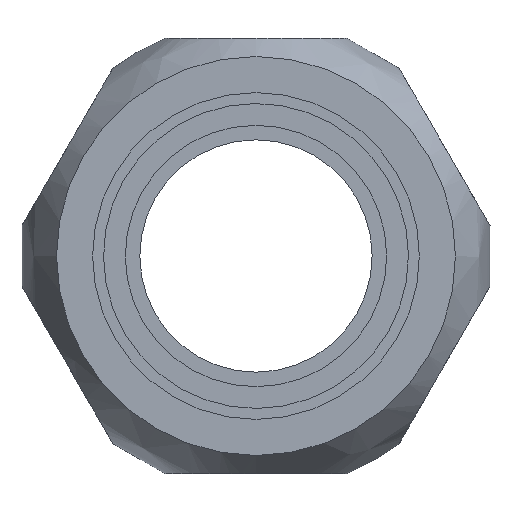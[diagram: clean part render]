
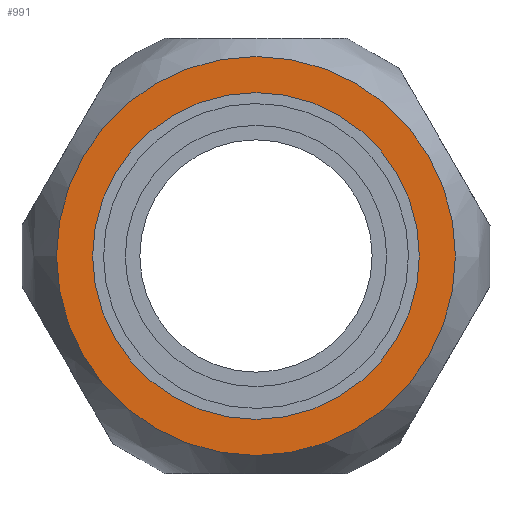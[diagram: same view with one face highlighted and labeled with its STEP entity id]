
A CAD part, left-side view. The second image highlights one B-rep face of the part: STEP entity #991.
In plain terms, the highlighted planar face has unit normal (-1, 0, 0).
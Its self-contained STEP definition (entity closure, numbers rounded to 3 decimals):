
#106=FACE_BOUND('',#232,.T.);
#124=PLANE('',#1198);
#158=FACE_OUTER_BOUND('',#231,.T.);
#231=EDGE_LOOP('',(#764,#765));
#232=EDGE_LOOP('',(#766,#767));
#358=CIRCLE('',#1190,13.735);
#359=CIRCLE('',#1191,13.735);
#362=CIRCLE('',#1196,11.25);
#363=CIRCLE('',#1197,11.25);
#449=VERTEX_POINT('',#2100);
#450=VERTEX_POINT('',#2104);
#453=VERTEX_POINT('',#2113);
#454=VERTEX_POINT('',#2115);
#561=EDGE_CURVE('',#449,#450,#358,.T.);
#562=EDGE_CURVE('',#450,#449,#359,.T.);
#566=EDGE_CURVE('',#454,#453,#362,.T.);
#567=EDGE_CURVE('',#453,#454,#363,.T.);
#764=ORIENTED_EDGE('',*,*,#562,.F.);
#765=ORIENTED_EDGE('',*,*,#561,.F.);
#766=ORIENTED_EDGE('',*,*,#566,.T.);
#767=ORIENTED_EDGE('',*,*,#567,.T.);
#991=ADVANCED_FACE('',(#158,#106),#124,.T.);
#1190=AXIS2_PLACEMENT_3D('',#2105,#1406,#1407);
#1191=AXIS2_PLACEMENT_3D('',#2106,#1408,#1409);
#1196=AXIS2_PLACEMENT_3D('',#2116,#1419,#1420);
#1197=AXIS2_PLACEMENT_3D('',#2117,#1421,#1422);
#1198=AXIS2_PLACEMENT_3D('',#2118,#1423,#1424);
#1406=DIRECTION('center_axis',(1.,0.,0.));
#1407=DIRECTION('ref_axis',(0.,1.,0.));
#1408=DIRECTION('center_axis',(1.,0.,0.));
#1409=DIRECTION('ref_axis',(0.,1.,0.));
#1419=DIRECTION('center_axis',(1.,0.,0.));
#1420=DIRECTION('ref_axis',(0.,1.,0.));
#1421=DIRECTION('center_axis',(1.,0.,0.));
#1422=DIRECTION('ref_axis',(0.,1.,0.));
#1423=DIRECTION('center_axis',(-1.,0.,0.));
#1424=DIRECTION('ref_axis',(0.,0.,1.));
#2100=CARTESIAN_POINT('',(0.,0.,13.735));
#2104=CARTESIAN_POINT('',(0.,13.735,0.));
#2105=CARTESIAN_POINT('Origin',(0.,0.,0.));
#2106=CARTESIAN_POINT('Origin',(0.,0.,0.));
#2113=CARTESIAN_POINT('',(0.,-11.25,0.));
#2115=CARTESIAN_POINT('',(0.,11.25,0.));
#2116=CARTESIAN_POINT('Origin',(0.,0.,0.));
#2117=CARTESIAN_POINT('Origin',(0.,0.,0.));
#2118=CARTESIAN_POINT('Origin',(0.,12.493,0.));
